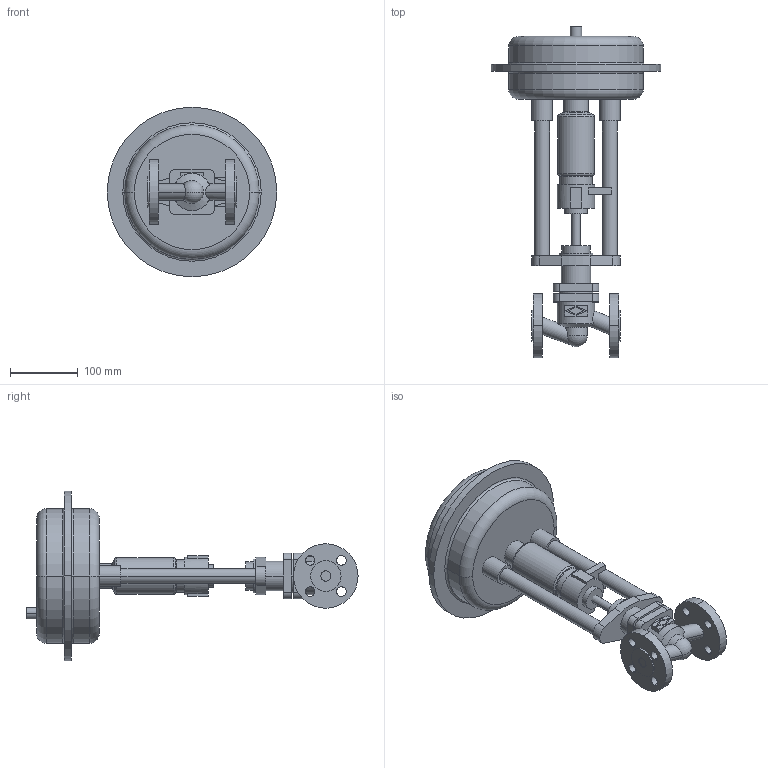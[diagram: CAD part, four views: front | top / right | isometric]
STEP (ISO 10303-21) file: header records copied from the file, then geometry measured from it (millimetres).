
FILE_DESCRIPTION(('OneSpaceDesigner STEP Export'),'2;1');
FILE_NAME('c000001401.stp','2005-02-14T14:01:43',(''),(''),'OneSpace Designer STEP processor (Jan. 2003) for AP203(Solid Model)','OneSpace Designer 12.01D 09-Jul-2004 (C) CoCreate Software GmbH','');
FILE_SCHEMA(('CONFIG_CONTROL_DESIGN'));
Length unit declared in the file: millimetre
Products named in the file (2): 1; 2
Bounding box: 250 x 489.5 x 250 mm (x, y, z)
Volume: 4123677.4 mm3; surface area: 306364.3 mm2
Topology: 2 solids, 2 shells, 181 faces, 433 edges, 281 vertices
Faces by surface type: cylinder 84, plane 73, torus 16, cone 6, sphere 2
Entity records: 4962 total; most frequent: CARTESIAN_POINT 920, ORIENTED_EDGE 862, DIRECTION 724, EDGE_CURVE 431, VERTEX_POINT 281, AXIS2_PLACEMENT_3D 262, EDGE_LOOP 224, VECTOR 200
